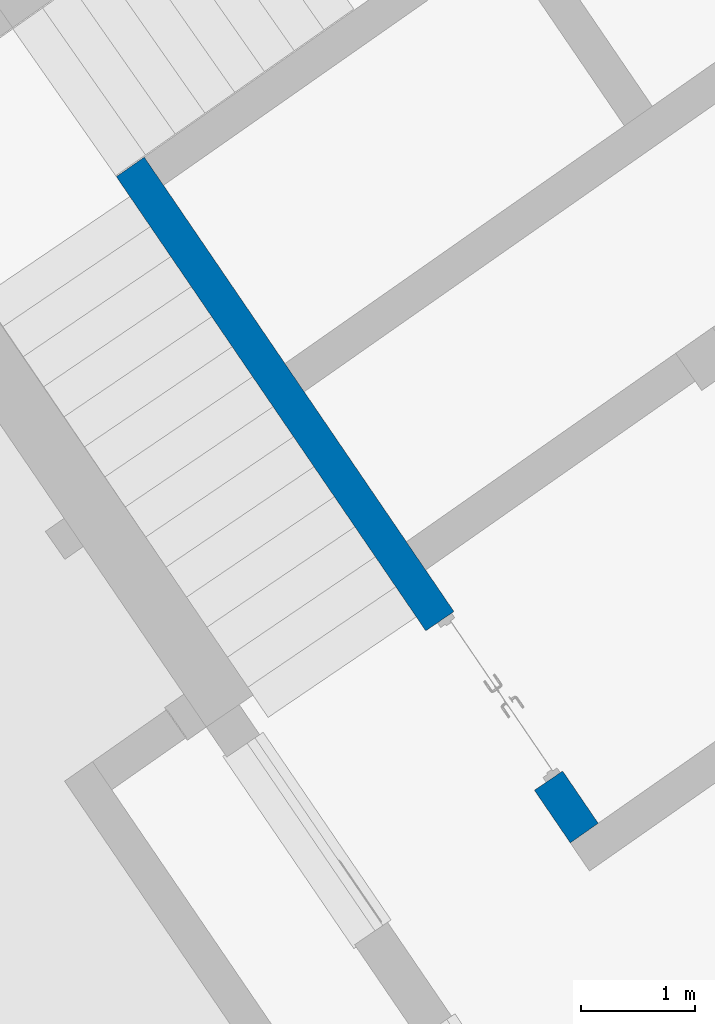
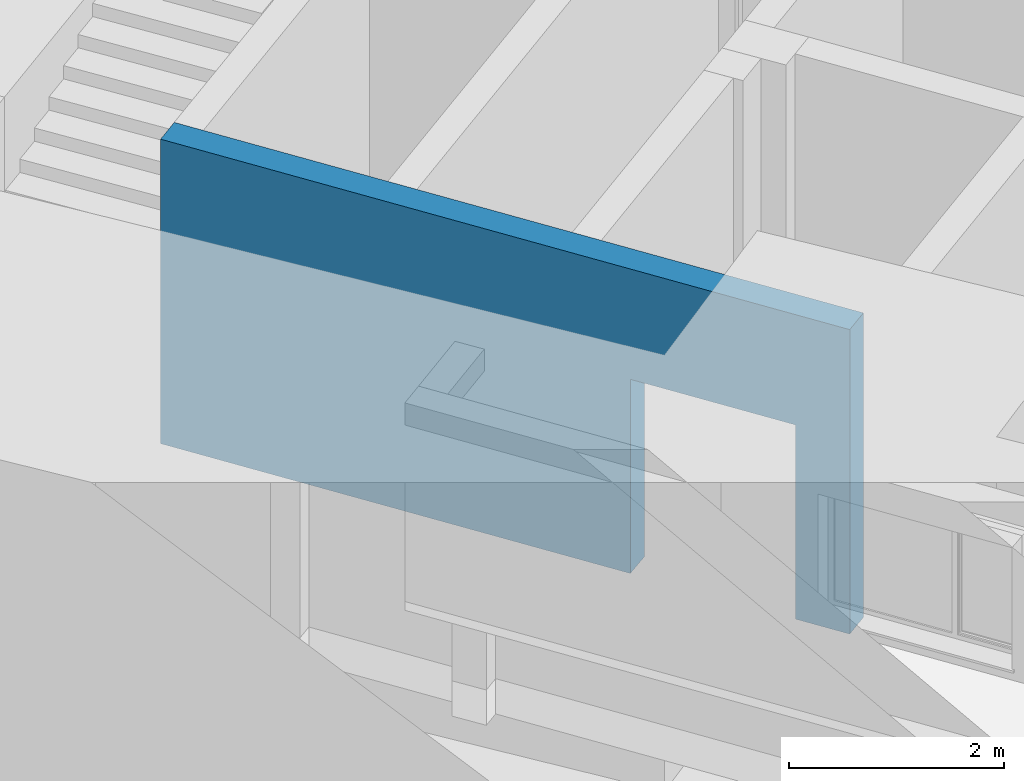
# One storey, part 29 of 112: 1 wall, 1 opening.
"""IFC2X3 building model written with IfcOpenShell, lengths in millimetres."""

from ifc_helpers import new_model, entity, si_unit, converted_unit, derived_unit, direction, frame, frame_2d, origin, place, context, subcontext, project, spatial, polyline, rectangle, outline, extrude, material, layer, layer_set, layer_usage, type_object, element, save


model = new_model("IFC2X3")

# Units and contexts
model_context = context("Model", 3, precision=0.01, world=origin(), true_north=direction((6.123031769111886e-17, 1.0)))
body_context = subcontext(model_context, "Body", "Model", "MODEL_VIEW")
ifc_project = project(units=[si_unit("LENGTHUNIT", "METRE", prefix="MILLI"), si_unit("AREAUNIT", "SQUARE_METRE"), si_unit("VOLUMEUNIT", "CUBIC_METRE"), converted_unit("PLANEANGLEUNIT", "DEGREE", entity("IfcRatioMeasure", 0.017453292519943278), si_unit("PLANEANGLEUNIT", "RADIAN"), dimensions=[0, 0, 0, 0, 0, 0, 0]), si_unit("MASSUNIT", "GRAM", prefix="KILO"), derived_unit("MASSDENSITYUNIT", [(si_unit("MASSUNIT", "GRAM", prefix="KILO"), 1), (si_unit("LENGTHUNIT", "METRE"), -3)]), derived_unit("MOMENTOFINERTIAUNIT", [(si_unit("LENGTHUNIT", "METRE"), 4)]), si_unit("TIMEUNIT", "SECOND"), si_unit("FREQUENCYUNIT", "HERTZ"), si_unit("THERMODYNAMICTEMPERATUREUNIT", "DEGREE_CELSIUS"), derived_unit("THERMALTRANSMITTANCEUNIT", [(si_unit("MASSUNIT", "GRAM", prefix="KILO"), 1), (si_unit("THERMODYNAMICTEMPERATUREUNIT", "KELVIN"), -1), (si_unit("TIMEUNIT", "SECOND"), -3)]), derived_unit("THERMALCONDUCTANCEUNIT", [(si_unit("MASSUNIT", "GRAM", prefix="KILO"), 1), (si_unit("LENGTHUNIT", "METRE"), 1), (si_unit("THERMODYNAMICTEMPERATUREUNIT", "KELVIN"), -1), (si_unit("TIMEUNIT", "SECOND"), -3)]), derived_unit("VOLUMETRICFLOWRATEUNIT", [(si_unit("LENGTHUNIT", "METRE"), 3), (si_unit("TIMEUNIT", "SECOND"), -1)]), derived_unit("MASSFLOWRATEUNIT", [(si_unit("MASSUNIT", "GRAM", prefix="KILO"), 1), (si_unit("TIMEUNIT", "SECOND"), -1)]), derived_unit("ROTATIONALFREQUENCYUNIT", [(si_unit("TIMEUNIT", "SECOND"), -1)]), si_unit("ELECTRICCURRENTUNIT", "AMPERE"), si_unit("ELECTRICVOLTAGEUNIT", "VOLT"), si_unit("POWERUNIT", "WATT"), converted_unit("FORCEUNIT", "KIP", entity("IfcRatioMeasure", 2.088543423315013e-05), si_unit("FORCEUNIT", "NEWTON"), dimensions=[1, 1, -2, 0, 0, 0, 0]), si_unit("ILLUMINANCEUNIT", "LUX"), si_unit("LUMINOUSFLUXUNIT", "LUMEN"), si_unit("LUMINOUSINTENSITYUNIT", "CANDELA"), derived_unit("USERDEFINED", [(si_unit("MASSUNIT", "GRAM", prefix="KILO"), -1), (si_unit("LENGTHUNIT", "METRE"), -2), (si_unit("TIMEUNIT", "SECOND"), 3), (si_unit("LUMINOUSFLUXUNIT", "LUMEN"), 1)]), derived_unit("USERDEFINED", [(si_unit("MASSUNIT", "GRAM", prefix="KILO"), 1), (si_unit("LENGTHUNIT", "METRE"), 3), (si_unit("TIMEUNIT", "SECOND"), -3), (si_unit("ELECTRICCURRENTUNIT", "AMPERE"), -2)]), derived_unit("USERDEFINED", [(si_unit("LENGTHUNIT", "METRE"), 2), (si_unit("TIMEUNIT", "SECOND"), -2)]), derived_unit("SOUNDPOWERUNIT", [(si_unit("MASSUNIT", "GRAM", prefix="KILO"), 1), (si_unit("LENGTHUNIT", "METRE"), 2), (si_unit("TIMEUNIT", "SECOND"), -3)]), derived_unit("SOUNDPRESSUREUNIT", [(si_unit("MASSUNIT", "GRAM", prefix="KILO"), 1), (si_unit("LENGTHUNIT", "METRE"), -1), (si_unit("TIMEUNIT", "SECOND"), -2)]), derived_unit("LINEARVELOCITYUNIT", [(si_unit("LENGTHUNIT", "METRE"), 1), (si_unit("TIMEUNIT", "SECOND"), -1)]), si_unit("PRESSUREUNIT", "PASCAL"), derived_unit("USERDEFINED", [(si_unit("LENGTHUNIT", "METRE"), -2), (si_unit("MASSUNIT", "GRAM", prefix="KILO"), 1), (si_unit("TIMEUNIT", "SECOND"), -2)]), derived_unit("LINEARFORCEUNIT", [(si_unit("MASSUNIT", "GRAM", prefix="KILO"), 1), (si_unit("LENGTHUNIT", "METRE"), 1), (si_unit("TIMEUNIT", "SECOND"), -2), (si_unit("LENGTHUNIT", "METRE"), -1)]), derived_unit("PLANARFORCEUNIT", [(si_unit("MASSUNIT", "GRAM", prefix="KILO"), 1), (si_unit("LENGTHUNIT", "METRE"), 1), (si_unit("TIMEUNIT", "SECOND"), -2), (si_unit("LENGTHUNIT", "METRE"), -2)]), derived_unit("SPECIFICHEATCAPACITYUNIT", [(si_unit("LENGTHUNIT", "METRE"), 2), (si_unit("TIMEUNIT", "SECOND"), -2), (si_unit("THERMODYNAMICTEMPERATUREUNIT", "KELVIN"), -1)]), derived_unit("VAPORPERMEABILITYUNIT", [(si_unit("TIMEUNIT", "SECOND"), 1), (si_unit("LENGTHUNIT", "METRE"), -1)]), derived_unit("DYNAMICVISCOSITYUNIT", [(si_unit("MASSUNIT", "GRAM", prefix="KILO"), 1), (si_unit("LENGTHUNIT", "METRE"), -1), (si_unit("TIMEUNIT", "SECOND"), -1)]), derived_unit("THERMALEXPANSIONCOEFFICIENTUNIT", [(si_unit("THERMODYNAMICTEMPERATUREUNIT", "KELVIN"), -1)])], contexts=[model_context])

# Site, building, storey
site_placement = place(None, frame((0.0, 0.0, 0.0), z_axis=(0.0, 0.0, 1.0), x_axis=(0.8191520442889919, 0.5735764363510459, 0.0)))
site = spatial("IfcSite", under=ifc_project, at=site_placement, Name="Default", CompositionType="ELEMENT")
building_placement = place(site_placement, origin())
building = spatial("IfcBuilding", under=site, at=building_placement, CompositionType="ELEMENT")
storey_placement = place(building_placement, frame((0.0, 0.0, -3600.0)))
storey = spatial("IfcBuildingStorey", under=building, at=storey_placement, Name="0.UG -3.60", CompositionType="ELEMENT", Elevation=-3600.0000000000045)

# Wall, opening
ifc_material = material(Name="Analytical Wall Surface_CJC")
ifc_layer = layer(ifc_material, 300.0)
ifc_layer_set = layer_set([ifc_layer], Name="Basic Wall:Wand_Innen_30")
ifc_layer_usage = layer_usage(ifc_layer_set, "AXIS2", "POSITIVE", -150.0)
wall_type = type_object("IfcWallType", Name="Basic Wall:Wand_Innen_30", PredefinedType="STANDARD", material=ifc_layer_set)
wall_placement = place(storey_placement, frame((-220985.79816644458, 106844.44947620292, 0.0), z_axis=(0.0, 0.0, 1.0), x_axis=(0.012729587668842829, 0.9999189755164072, 0.0)))
wall = element("IfcWallStandardCase", 1, at=wall_placement, inside=storey, type_object=wall_type, material=ifc_layer_usage, Name="Basic Wall:Wand_Innen_30", ObjectType="Basic Wall:Wand_Innen_30", context=body_context, shape_type="SweptSolid", body=[
    extrude(outline(polyline([(3.8191857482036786, -150.0), (2704.0379695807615, -150.0), (3004.06227889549, -150.0), (4604.191928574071, -150.0), (4904.2162378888, -150.0), (6804.37019688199, -150.0), (7104.394506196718, -150.0), (7100.575320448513, 150.0), (0.0, 150.0), (3.8191857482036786, -150.0)])), origin(), (0.0, 0.0, 1.0), 3450.0),
])
opening_placement = place(wall_placement, frame((2260.561517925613, 150.0, 0.0)))
element("IfcOpeningElement", 2, at=opening_placement, cuts=wall, Name="M_Door-Passage-Double-Flush:160x210:1", ObjectType="Opening", context=body_context, shape_type="SweptSolid", body=[
    extrude(rectangle(XDim=2200.0, YDim=1699.9999999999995, at=frame_2d((1100.0, 849.9999999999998), x_axis=(1.0, 0.0))), frame((0.0, 0.0, 0.0), z_axis=(0.0, -1.0, 0.0), x_axis=(0.0, 0.0, 1.0)), (0.0, 0.0, 1.0), 300.0),
])

save(model, "model.ifc")
